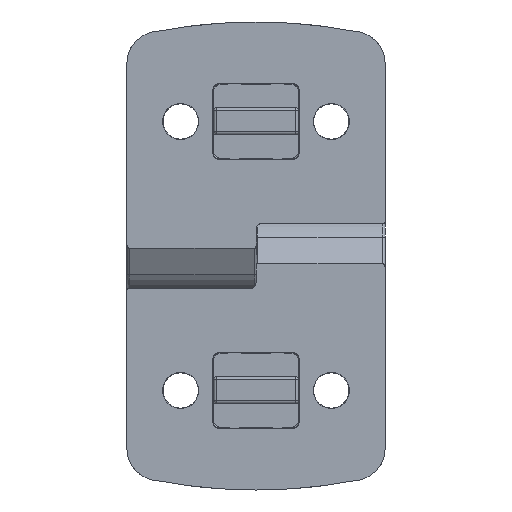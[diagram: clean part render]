
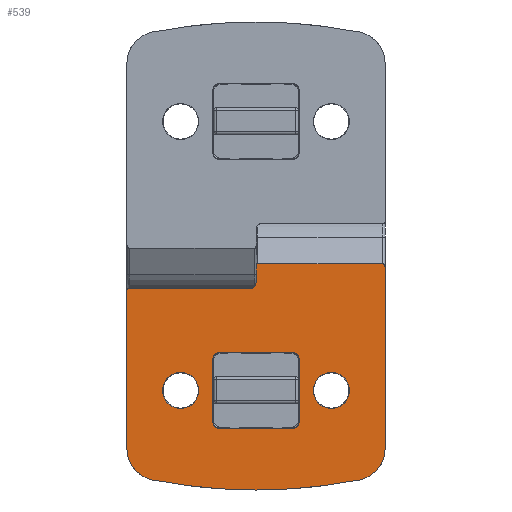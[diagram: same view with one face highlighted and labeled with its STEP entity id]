
A CAD part, front view. The second image highlights one B-rep face of the part: STEP entity #539.
In plain terms, the highlighted planar face has unit normal (0, -1, 0).
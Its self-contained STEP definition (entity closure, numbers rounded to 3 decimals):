
#539=ADVANCED_FACE('NONE',(#1425,#1426,#1427,#1428),#1429,.T.);
#1425=FACE_OUTER_BOUND('',#2817,.T.);
#1426=FACE_BOUND('',#2818,.T.);
#1427=FACE_BOUND('',#2819,.T.);
#1428=FACE_BOUND('',#2820,.T.);
#1429=PLANE('',#2821);
#2817=EDGE_LOOP('',(#6514,#6515,#6516,#6517,#6518,#6519,#6520,#6521,#6522,#6523,#6524,#6525,#6526));
#2818=EDGE_LOOP('',(#6527,#6528,#6529,#6530,#6531,#6532,#6533,#6534));
#2819=EDGE_LOOP('',(#6535,#6536));
#2820=EDGE_LOOP('',(#6537,#6538));
#2821=AXIS2_PLACEMENT_3D('',#6539,#6540,#6541);
#6514=ORIENTED_EDGE('',*,*,#9810,.T.);
#6515=ORIENTED_EDGE('',*,*,#9811,.T.);
#6516=ORIENTED_EDGE('',*,*,#9812,.T.);
#6517=ORIENTED_EDGE('',*,*,#9813,.T.);
#6518=ORIENTED_EDGE('',*,*,#9814,.F.);
#6519=ORIENTED_EDGE('',*,*,#9815,.T.);
#6520=ORIENTED_EDGE('',*,*,#9816,.T.);
#6521=ORIENTED_EDGE('',*,*,#9817,.F.);
#6522=ORIENTED_EDGE('',*,*,#9780,.F.);
#6523=ORIENTED_EDGE('',*,*,#9818,.F.);
#6524=ORIENTED_EDGE('',*,*,#9819,.T.);
#6525=ORIENTED_EDGE('',*,*,#9820,.F.);
#6526=ORIENTED_EDGE('',*,*,#9821,.T.);
#6527=ORIENTED_EDGE('',*,*,#9822,.F.);
#6528=ORIENTED_EDGE('',*,*,#9823,.F.);
#6529=ORIENTED_EDGE('',*,*,#9824,.F.);
#6530=ORIENTED_EDGE('',*,*,#9825,.F.);
#6531=ORIENTED_EDGE('',*,*,#9826,.F.);
#6532=ORIENTED_EDGE('',*,*,#9827,.F.);
#6533=ORIENTED_EDGE('',*,*,#9828,.F.);
#6534=ORIENTED_EDGE('',*,*,#9829,.F.);
#6535=ORIENTED_EDGE('',*,*,#9830,.T.);
#6536=ORIENTED_EDGE('',*,*,#9831,.T.);
#6537=ORIENTED_EDGE('',*,*,#9832,.F.);
#6538=ORIENTED_EDGE('',*,*,#9833,.F.);
#6539=CARTESIAN_POINT('',(-31.5,0.0,1.134));
#6540=DIRECTION('',(0.0,-1.0,0.0));
#6541=DIRECTION('',(0.0,0.0,-1.0));
#9780=EDGE_CURVE('NONE',#11274,#11276,#11277,.T.);
#9810=EDGE_CURVE('NONE',#11325,#11326,#11327,.T.);
#9811=EDGE_CURVE('NONE',#11326,#11328,#11329,.T.);
#9812=EDGE_CURVE('NONE',#11328,#11330,#11331,.T.);
#9813=EDGE_CURVE('NONE',#11330,#11332,#11333,.T.);
#9814=EDGE_CURVE('NONE',#11334,#11332,#11335,.T.);
#9815=EDGE_CURVE('NONE',#11334,#11336,#11337,.T.);
#9816=EDGE_CURVE('NONE',#11336,#11338,#11339,.T.);
#9817=EDGE_CURVE('NONE',#11276,#11338,#11340,.T.);
#9818=EDGE_CURVE('NONE',#11341,#11274,#11342,.T.);
#9819=EDGE_CURVE('NONE',#11341,#11343,#11344,.T.);
#9820=EDGE_CURVE('NONE',#11345,#11343,#11346,.T.);
#9821=EDGE_CURVE('NONE',#11345,#11325,#11347,.T.);
#9822=EDGE_CURVE('NONE',#11348,#11349,#11350,.T.);
#9823=EDGE_CURVE('NONE',#11351,#11348,#11352,.T.);
#9824=EDGE_CURVE('NONE',#11353,#11351,#11354,.T.);
#9825=EDGE_CURVE('NONE',#11355,#11353,#11356,.T.);
#9826=EDGE_CURVE('NONE',#11357,#11355,#11358,.T.);
#9827=EDGE_CURVE('NONE',#11359,#11357,#11360,.T.);
#9828=EDGE_CURVE('NONE',#11361,#11359,#11362,.T.);
#9829=EDGE_CURVE('NONE',#11349,#11361,#11363,.T.);
#9830=EDGE_CURVE('NONE',#11364,#11365,#11366,.T.);
#9831=EDGE_CURVE('NONE',#11365,#11364,#11367,.T.);
#9832=EDGE_CURVE('NONE',#11368,#11369,#11370,.T.);
#9833=EDGE_CURVE('NONE',#11369,#11368,#11371,.T.);
#11274=VERTEX_POINT('NONE',#13547);
#11276=VERTEX_POINT('NONE',#13550);
#11277=CIRCLE('',#13551,100.0);
#11325=VERTEX_POINT('NONE',#13611);
#11326=VERTEX_POINT('NONE',#13612);
#11327=LINE('',#13613,#13614);
#11328=VERTEX_POINT('NONE',#13615);
#11329=(B_SPLINE_CURVE(3,(#13617,#13618,#13619,#13620),.UNSPECIFIED.,.F.,.F.)B_SPLINE_CURVE_WITH_KNOTS((4,4),(3.142,4.712),.UNSPECIFIED.)RATIONAL_B_SPLINE_CURVE((1.0,0.805,0.805,1.0))BOUNDED_CURVE()REPRESENTATION_ITEM('')GEOMETRIC_REPRESENTATION_ITEM()CURVE());
#11330=VERTEX_POINT('NONE',#13627);
#11331=LINE('',#13628,#13629);
#11332=VERTEX_POINT('NONE',#13630);
#11333=(B_SPLINE_CURVE(3,(#13632,#13633,#13634,#13635),.UNSPECIFIED.,.F.,.F.)B_SPLINE_CURVE_WITH_KNOTS((4,4),(1.571,3.142),.UNSPECIFIED.)RATIONAL_B_SPLINE_CURVE((1.0,0.805,0.805,1.0))BOUNDED_CURVE()REPRESENTATION_ITEM('')GEOMETRIC_REPRESENTATION_ITEM()CURVE());
#11334=VERTEX_POINT('NONE',#13642);
#11335=LINE('',#13643,#13644);
#11336=VERTEX_POINT('NONE',#13645);
#11337=(B_SPLINE_CURVE(3,(#13647,#13648,#13649,#13650),.UNSPECIFIED.,.F.,.F.)B_SPLINE_CURVE_WITH_KNOTS((4,4),(3.142,4.712),.UNSPECIFIED.)RATIONAL_B_SPLINE_CURVE((1.0,0.805,0.805,1.0))BOUNDED_CURVE()REPRESENTATION_ITEM('')GEOMETRIC_REPRESENTATION_ITEM()CURVE());
#11338=VERTEX_POINT('NONE',#13657);
#11339=LINE('',#13658,#13659);
#11340=CIRCLE('',#13660,6.);
#11341=VERTEX_POINT('NONE',#13661);
#11342=CIRCLE('',#13662,100.0);
#11343=VERTEX_POINT('NONE',#13663);
#11344=CIRCLE('',#13664,6.);
#11345=VERTEX_POINT('NONE',#13665);
#11346=LINE('',#13666,#13667);
#11347=(B_SPLINE_CURVE(3,(#13669,#13670,#13671,#13672),.UNSPECIFIED.,.F.,.F.)B_SPLINE_CURVE_WITH_KNOTS((4,4),(1.571,3.142),.UNSPECIFIED.)RATIONAL_B_SPLINE_CURVE((1.0,0.805,0.805,1.0))BOUNDED_CURVE()REPRESENTATION_ITEM('')GEOMETRIC_REPRESENTATION_ITEM()CURVE());
#11348=VERTEX_POINT('NONE',#13679);
#11349=VERTEX_POINT('NONE',#13680);
#11350=CIRCLE('',#13681,1.0);
#11351=VERTEX_POINT('NONE',#13682);
#11352=LINE('',#13683,#13684);
#11353=VERTEX_POINT('NONE',#13685);
#11354=CIRCLE('',#13686,1.0);
#11355=VERTEX_POINT('NONE',#13687);
#11356=LINE('',#13688,#13689);
#11357=VERTEX_POINT('NONE',#13690);
#11358=CIRCLE('',#13691,1.);
#11359=VERTEX_POINT('NONE',#13692);
#11360=LINE('',#13693,#13694);
#11361=VERTEX_POINT('NONE',#13695);
#11362=CIRCLE('',#13696,1.0);
#11363=LINE('',#13697,#13698);
#11364=VERTEX_POINT('NONE',#13699);
#11365=VERTEX_POINT('NONE',#13700);
#11366=CIRCLE('',#13701,3.358);
#11367=CIRCLE('',#13702,3.358);
#11368=VERTEX_POINT('NONE',#13703);
#11369=VERTEX_POINT('NONE',#13704);
#11370=CIRCLE('',#13705,3.358);
#11371=CIRCLE('',#13706,3.358);
#13547=CARTESIAN_POINT('',(0.0,0.0,-43.5));
#13550=CARTESIAN_POINT('',(-19.149,0.0,-41.649));
#13551=AXIS2_PLACEMENT_3D('',#17709,#17710,#17711);
#13611=CARTESIAN_POINT('',(23.5,0.,-1.415));
#13612=CARTESIAN_POINT('',(0.3,0.,-1.415));
#13613=CARTESIAN_POINT('',(24.0,0.,-1.415));
#13614=VECTOR('',#17754,1000.0);
#13615=CARTESIAN_POINT('',(0.0,0.,-2.015));
#13617=CARTESIAN_POINT('',(0.3,0.,-1.415));
#13618=CARTESIAN_POINT('',(0.124,0.0,-1.415));
#13619=CARTESIAN_POINT('',(0.,0.0,-1.664));
#13620=CARTESIAN_POINT('',(0.0,0.,-2.015));
#13627=CARTESIAN_POINT('',(0.0,0.,-4.96));
#13628=CARTESIAN_POINT('',(0.0,0.,7.897));
#13629=VECTOR('',#17755,1000.0);
#13630=CARTESIAN_POINT('',(-1.0,0.0,-6.0));
#13632=CARTESIAN_POINT('',(0.0,0.,-4.96));
#13633=CARTESIAN_POINT('',(0.,0.0,-5.569));
#13634=CARTESIAN_POINT('',(-0.414,0.0,-6.0));
#13635=CARTESIAN_POINT('',(-1.0,0.0,-6.0));
#13642=CARTESIAN_POINT('',(-23.7,0.0,-6.0));
#13643=CARTESIAN_POINT('',(-24.225,0.0,-6.0));
#13644=VECTOR('',#17756,1000.0);
#13645=CARTESIAN_POINT('',(-24.0,0.0,-6.312));
#13647=CARTESIAN_POINT('',(-23.7,0.0,-6.0));
#13648=CARTESIAN_POINT('',(-23.876,0.0,-6.0));
#13649=CARTESIAN_POINT('',(-24.0,0.0,-6.129));
#13650=CARTESIAN_POINT('',(-24.0,0.0,-6.312));
#13657=CARTESIAN_POINT('',(-24.0,0.0,-35.761));
#13658=CARTESIAN_POINT('',(-24.0,0.0,1.134));
#13659=VECTOR('',#17757,1000.0);
#13660=AXIS2_PLACEMENT_3D('',#17758,#17759,#17760);
#13661=CARTESIAN_POINT('',(19.149,0.0,-41.649));
#13662=AXIS2_PLACEMENT_3D('',#17761,#17762,#17763);
#13663=CARTESIAN_POINT('',(24.0,0.0,-35.761));
#13664=AXIS2_PLACEMENT_3D('',#17764,#17765,#17766);
#13665=CARTESIAN_POINT('',(24.0,0.0,-2.415));
#13666=CARTESIAN_POINT('',(24.0,0.0,1.134));
#13667=VECTOR('',#17767,1000.0);
#13669=CARTESIAN_POINT('',(24.0,0.0,-2.415));
#13670=CARTESIAN_POINT('',(24.0,0.0,-1.829));
#13671=CARTESIAN_POINT('',(23.793,0.0,-1.415));
#13672=CARTESIAN_POINT('',(23.5,0.,-1.415));
#13679=CARTESIAN_POINT('',(7.0,0.0,-32.0));
#13680=CARTESIAN_POINT('',(8.,0.0,-31.0));
#13681=AXIS2_PLACEMENT_3D('',#17768,#17769,#17770);
#13682=CARTESIAN_POINT('',(-7.,0.0,-32.0));
#13683=CARTESIAN_POINT('',(-7.,0.0,-32.0));
#13684=VECTOR('',#17771,1000.0);
#13685=CARTESIAN_POINT('',(-8.,0.0,-31.0));
#13686=AXIS2_PLACEMENT_3D('',#17772,#17773,#17774);
#13687=CARTESIAN_POINT('',(-8.0,0.0,-19.0));
#13688=CARTESIAN_POINT('',(-8.0,0.0,-19.0));
#13689=VECTOR('',#17775,1000.0);
#13690=CARTESIAN_POINT('',(-7.0,0.0,-18.0));
#13691=AXIS2_PLACEMENT_3D('',#17776,#17777,#17778);
#13692=CARTESIAN_POINT('',(7.0,0.0,-18.0));
#13693=CARTESIAN_POINT('',(-7.0,0.0,-18.0));
#13694=VECTOR('',#17779,1000.0);
#13695=CARTESIAN_POINT('',(8.0,0.0,-19.0));
#13696=AXIS2_PLACEMENT_3D('',#17780,#17781,#17782);
#13697=CARTESIAN_POINT('',(8.0,0.0,-19.0));
#13698=VECTOR('',#17783,1000.0);
#13699=CARTESIAN_POINT('',(14.0,0.,-28.358));
#13700=CARTESIAN_POINT('',(14.0,0.,-21.642));
#13701=AXIS2_PLACEMENT_3D('',#17784,#17785,#17786);
#13702=AXIS2_PLACEMENT_3D('',#17787,#17788,#17789);
#13703=CARTESIAN_POINT('',(-14.0,0.,-28.358));
#13704=CARTESIAN_POINT('',(-14.0,0.,-21.642));
#13705=AXIS2_PLACEMENT_3D('',#17790,#17791,#17792);
#13706=AXIS2_PLACEMENT_3D('',#17793,#17794,#17795);
#17709=CARTESIAN_POINT('',(0.0,0.0,56.5));
#17710=DIRECTION('',(0.0,1.0,0.0));
#17711=DIRECTION('',(0.0,0.0,-1.0));
#17754=DIRECTION('',(-1.0,-0.0,-0.0));
#17755=DIRECTION('',(0.0,0.,-1.0));
#17756=DIRECTION('',(1.0,-0.0,-0.0));
#17757=DIRECTION('',(0.0,0.0,-1.0));
#17758=CARTESIAN_POINT('',(-18.0,0.0,-35.761));
#17759=DIRECTION('',(0.0,1.0,0.0));
#17760=DIRECTION('',(0.0,0.0,1.0));
#17761=CARTESIAN_POINT('',(0.0,0.0,56.5));
#17762=DIRECTION('',(0.0,1.0,0.0));
#17763=DIRECTION('',(0.0,0.0,-1.0));
#17764=CARTESIAN_POINT('',(18.0,0.0,-35.761));
#17765=DIRECTION('',(0.0,-1.0,0.0));
#17766=DIRECTION('',(0.0,0.0,-1.0));
#17767=DIRECTION('',(0.0,0.0,-1.0));
#17768=CARTESIAN_POINT('',(7.0,0.0,-31.0));
#17769=DIRECTION('',(0.0,-1.0,0.0));
#17770=DIRECTION('',(0.0,0.0,-1.0));
#17771=DIRECTION('',(1.0,0.0,0.0));
#17772=CARTESIAN_POINT('',(-7.,0.0,-31.0));
#17773=DIRECTION('',(0.0,-1.0,0.0));
#17774=DIRECTION('',(0.0,0.0,-1.0));
#17775=DIRECTION('',(0.,0.0,-1.0));
#17776=CARTESIAN_POINT('',(-7.,0.0,-19.0));
#17777=DIRECTION('',(0.0,-1.0,0.0));
#17778=DIRECTION('',(0.0,0.0,-1.0));
#17779=DIRECTION('',(-1.0,-0.0,0.));
#17780=CARTESIAN_POINT('',(7.0,0.0,-19.0));
#17781=DIRECTION('',(0.0,-1.0,0.0));
#17782=DIRECTION('',(0.0,0.0,1.0));
#17783=DIRECTION('',(0.,-0.0,1.0));
#17784=CARTESIAN_POINT('',(14.0,0.,-25.0));
#17785=DIRECTION('',(-0.0,1.0,0.));
#17786=DIRECTION('',(0.0,0.,-1.0));
#17787=CARTESIAN_POINT('',(14.0,0.,-25.0));
#17788=DIRECTION('',(-0.0,1.0,0.));
#17789=DIRECTION('',(0.0,0.,-1.0));
#17790=CARTESIAN_POINT('',(-14.0,0.,-25.0));
#17791=DIRECTION('',(0.0,-1.0,0.));
#17792=DIRECTION('',(0.0,0.,-1.0));
#17793=CARTESIAN_POINT('',(-14.0,0.,-25.0));
#17794=DIRECTION('',(0.0,-1.0,0.));
#17795=DIRECTION('',(0.0,0.,-1.0));
